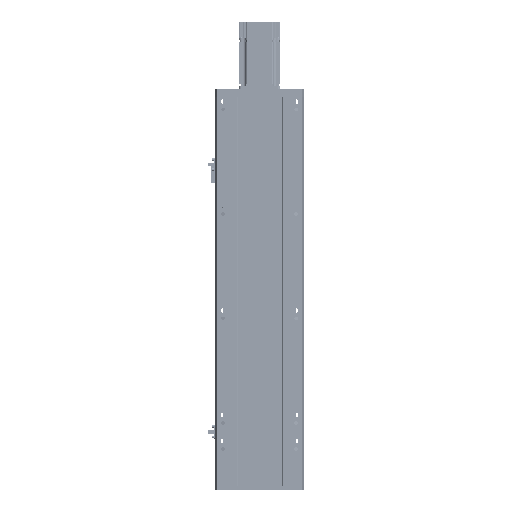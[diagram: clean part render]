
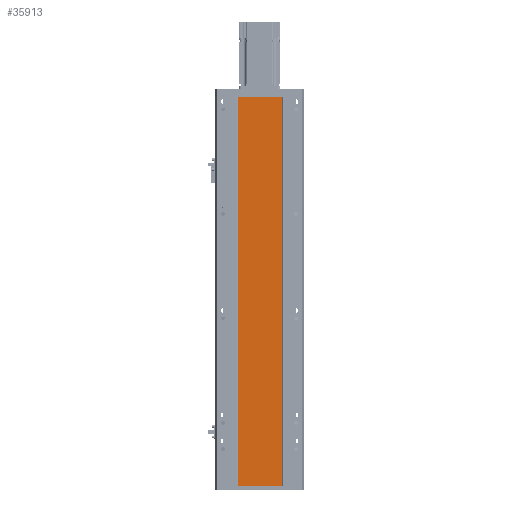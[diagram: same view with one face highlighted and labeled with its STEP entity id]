
A CAD part, front view. The second image highlights one B-rep face of the part: STEP entity #35913.
In plain terms, the highlighted planar face has unit normal (0, -1, 0).
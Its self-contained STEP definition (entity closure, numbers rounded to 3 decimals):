
#1111 = CARTESIAN_POINT ( 'NONE',  ( 42., 0., -745. ) ) ;
#3010 = VERTEX_POINT ( 'NONE', #54737 ) ;
#6956 = EDGE_CURVE ( 'NONE', #3010, #14160, #61516, .T. ) ;
#9095 = DIRECTION ( 'NONE',  ( 0., 0., 1. ) ) ;
#11367 = EDGE_CURVE ( 'NONE', #41454, #83910, #71685, .T. ) ;
#14160 = VERTEX_POINT ( 'NONE', #68544 ) ;
#29583 = CARTESIAN_POINT ( 'NONE',  ( 42., 0., 0. ) ) ;
#30365 = EDGE_LOOP ( 'NONE', ( #90338, #50274, #78425, #93972 ) ) ;
#32511 = PLANE ( 'NONE',  #47055 ) ;
#35913 = ADVANCED_FACE ( 'NONE', ( #55631 ), #32511, .T. ) ;
#40348 = VECTOR ( 'NONE', #46986, 1000. ) ;
#40509 = DIRECTION ( 'NONE',  ( 0., 0., -1. ) ) ;
#41454 = VERTEX_POINT ( 'NONE', #73724 ) ;
#42729 = VECTOR ( 'NONE', #60809, 1000. ) ;
#46986 = DIRECTION ( 'NONE',  ( 1., 0., 0. ) ) ;
#47055 = AXIS2_PLACEMENT_3D ( 'NONE', #87986, #88331, #40509 ) ;
#50274 = ORIENTED_EDGE ( 'NONE', *, *, #82661, .F. ) ;
#50497 = VECTOR ( 'NONE', #78850, 1000. ) ;
#54737 = CARTESIAN_POINT ( 'NONE',  ( -42., 0., -745. ) ) ;
#55631 = FACE_OUTER_BOUND ( 'NONE', #30365, .T. ) ;
#60809 = DIRECTION ( 'NONE',  ( 0., 0., 1. ) ) ;
#61516 = LINE ( 'NONE', #70334, #40348 ) ;
#63913 = LINE ( 'NONE', #84568, #42729 ) ;
#67585 = VECTOR ( 'NONE', #9095, 1000. ) ;
#68544 = CARTESIAN_POINT ( 'NONE',  ( 42., 0., -745. ) ) ;
#70334 = CARTESIAN_POINT ( 'NONE',  ( -42., 0., -745. ) ) ;
#71685 = LINE ( 'NONE', #102268, #50497 ) ;
#73724 = CARTESIAN_POINT ( 'NONE',  ( -42., 0., 0. ) ) ;
#78425 = ORIENTED_EDGE ( 'NONE', *, *, #6956, .T. ) ;
#78850 = DIRECTION ( 'NONE',  ( 1., 0., 0. ) ) ;
#82661 = EDGE_CURVE ( 'NONE', #3010, #41454, #63913, .T. ) ;
#83910 = VERTEX_POINT ( 'NONE', #29583 ) ;
#84568 = CARTESIAN_POINT ( 'NONE',  ( -42., 0., -745. ) ) ;
#87986 = CARTESIAN_POINT ( 'NONE',  ( -42., 0., -745. ) ) ;
#88331 = DIRECTION ( 'NONE',  ( 0., -1., 0. ) ) ;
#88824 = LINE ( 'NONE', #1111, #67585 ) ;
#90338 = ORIENTED_EDGE ( 'NONE', *, *, #11367, .F. ) ;
#92583 = EDGE_CURVE ( 'NONE', #14160, #83910, #88824, .T. ) ;
#93972 = ORIENTED_EDGE ( 'NONE', *, *, #92583, .T. ) ;
#102268 = CARTESIAN_POINT ( 'NONE',  ( -42., 0., 0. ) ) ;
